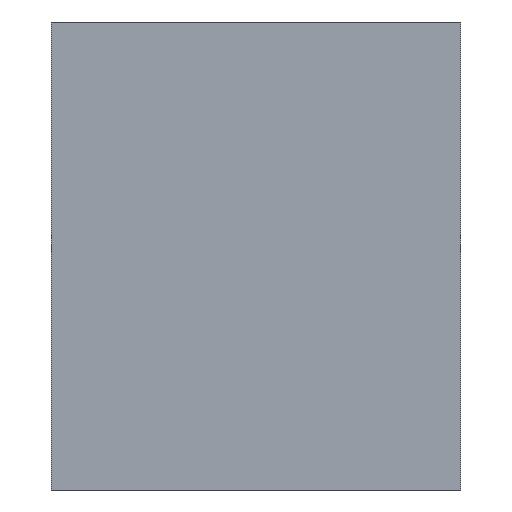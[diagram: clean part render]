
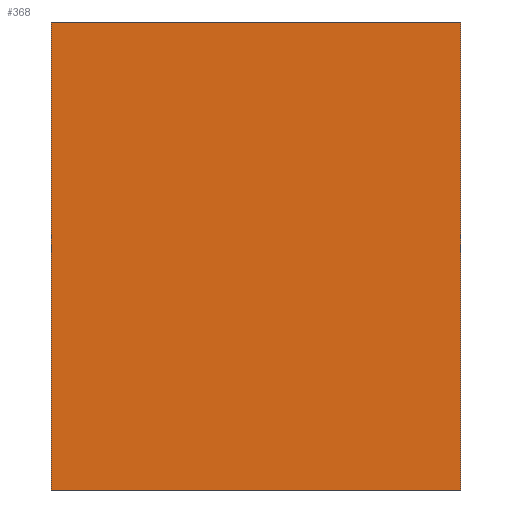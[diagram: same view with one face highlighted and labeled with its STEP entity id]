
A CAD part, left-side view. The second image highlights one B-rep face of the part: STEP entity #368.
In plain terms, the highlighted planar face has unit normal (-1, 0, 0).
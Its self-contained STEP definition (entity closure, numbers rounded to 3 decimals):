
#32=FACE_OUTER_BOUND($,#49,.T.);
#49=EDGE_LOOP($,(#285,#286,#287,#288));
#75=LINE($,#531,#122);
#91=LINE($,#572,#138);
#92=LINE($,#573,#139);
#93=LINE($,#574,#140);
#122=VECTOR($,#430,14.);
#138=VECTOR($,#464,14.);
#139=VECTOR($,#465,16.);
#140=VECTOR($,#466,16.);
#165=VERTEX_POINT($,#528);
#166=VERTEX_POINT($,#530);
#181=VERTEX_POINT($,#570);
#182=VERTEX_POINT($,#571);
#203=EDGE_CURVE($,#165,#166,#75,.T.);
#223=EDGE_CURVE($,#181,#182,#91,.T.);
#224=EDGE_CURVE($,#182,#166,#92,.T.);
#225=EDGE_CURVE($,#181,#165,#93,.T.);
#285=ORIENTED_EDGE($,*,*,#223,.T.);
#286=ORIENTED_EDGE($,*,*,#224,.T.);
#287=ORIENTED_EDGE($,*,*,#203,.F.);
#288=ORIENTED_EDGE($,*,*,#225,.F.);
#349=PLANE($,#394);
#368=ADVANCED_FACE($,(#32),#349,.T.);
#394=AXIS2_PLACEMENT_3D($,#569,#462,#463);
#430=DIRECTION($,(0.,-1.,0.));
#462=DIRECTION('center_axis',(-1.,0.,0.));
#463=DIRECTION('ref_axis',(0.,-1.,0.));
#464=DIRECTION($,(0.,-1.,0.));
#465=DIRECTION($,(0.,0.,1.));
#466=DIRECTION($,(0.,0.,1.));
#528=CARTESIAN_POINT('',(0.,14.,16.));
#530=CARTESIAN_POINT('',(0.,0.,16.));
#531=CARTESIAN_POINT($,(0.,14.,16.));
#569=CARTESIAN_POINT('Origin',(0.,14.,0.));
#570=CARTESIAN_POINT('',(0.,14.,0.));
#571=CARTESIAN_POINT('',(0.,0.,0.));
#572=CARTESIAN_POINT($,(0.,14.,0.));
#573=CARTESIAN_POINT($,(0.,0.,0.));
#574=CARTESIAN_POINT($,(0.,14.,0.));
